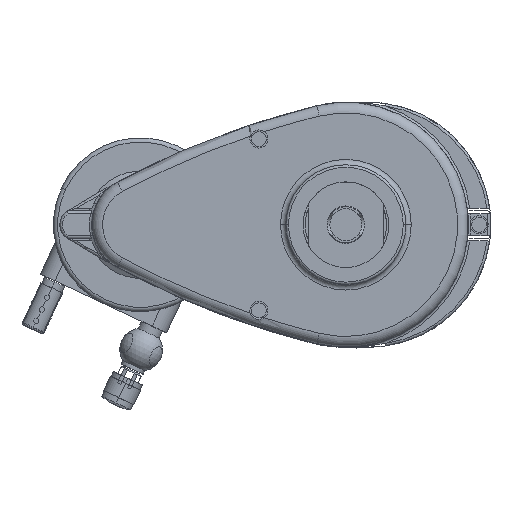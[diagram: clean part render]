
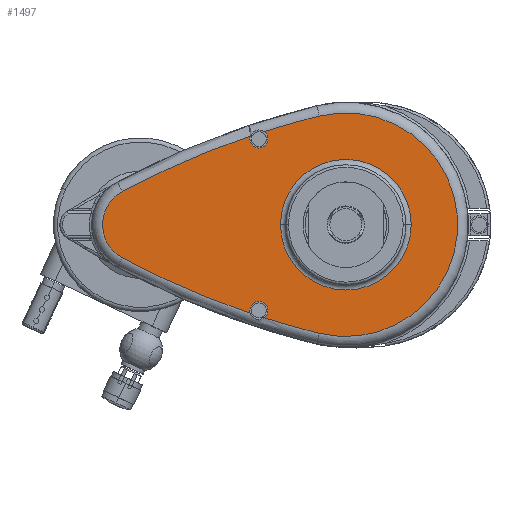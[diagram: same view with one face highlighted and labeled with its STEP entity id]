
A CAD part, front view. The second image highlights one B-rep face of the part: STEP entity #1497.
In plain terms, the highlighted planar face has unit normal (0, -1, 0).
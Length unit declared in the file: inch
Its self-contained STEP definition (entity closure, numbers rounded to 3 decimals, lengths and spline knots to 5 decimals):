
#1=CARTESIAN_POINT('',(1.,-2.04,-2.));
#2=DIRECTION('',(0.,-1.,0.));
#3=DIRECTION('',(0.,0.,1.));
#4=AXIS2_PLACEMENT_3D('',#1,#2,#3);
#6=CARTESIAN_POINT('',(1.,-2.04,2.));
#7=DIRECTION('',(0.,-1.,0.));
#8=DIRECTION('',(-0.947,0.,0.321));
#9=AXIS2_PLACEMENT_3D('',#6,#7,#8);
#11=CARTESIAN_POINT('',(1.,-2.04,2.));
#12=DIRECTION('',(0.,-1.,0.));
#13=DIRECTION('',(0.,0.,-1.));
#14=AXIS2_PLACEMENT_3D('',#11,#12,#13);
#16=CARTESIAN_POINT('',(1.,-2.04,-2.));
#17=DIRECTION('',(0.,-1.,0.));
#18=DIRECTION('',(0.574,0.,-0.819));
#19=AXIS2_PLACEMENT_3D('',#16,#17,#18);
#147=CARTESIAN_POINT('',(3.03,-2.04,0.));
#148=DIRECTION('',(0.,-1.,0.));
#149=DIRECTION('',(-0.237,0.,-0.972));
#150=AXIS2_PLACEMENT_3D('',#147,#148,#149);
#166=CARTESIAN_POINT('',(7.05448,-2.04,-16.47574));
#167=DIRECTION('',(0.,-1.,0.));
#168=DIRECTION('',(-0.32,0.,0.948));
#169=AXIS2_PLACEMENT_3D('',#166,#167,#168);
#181=CARTESIAN_POINT('',(7.05448,-2.04,-16.47574));
#182=DIRECTION('',(0.,-1.,0.));
#183=DIRECTION('',(-0.237,0.,0.971));
#184=AXIS2_PLACEMENT_3D('',#181,#182,#183);
#193=CARTESIAN_POINT('',(-1.77,-2.04,0.));
#194=DIRECTION('',(0.,-1.,0.));
#195=DIRECTION('',(-0.472,0.,0.882));
#196=AXIS2_PLACEMENT_3D('',#193,#194,#195);
#224=CARTESIAN_POINT('',(7.054,-2.04,16.476));
#225=DIRECTION('',(0.,-1.,0.));
#226=DIRECTION('',(-0.303,0.,-0.953));
#227=AXIS2_PLACEMENT_3D('',#224,#225,#226);
#244=CARTESIAN_POINT('',(7.054,-2.04,16.476));
#245=DIRECTION('',(0.,-1.,0.));
#246=DIRECTION('',(-0.472,0.,-0.882));
#247=AXIS2_PLACEMENT_3D('',#244,#245,#246);
#1195=CARTESIAN_POINT('',(2.41176,-2.04,-2.53572));
#1196=CARTESIAN_POINT('',(2.41067,-2.04,2.53546));
#1197=VERTEX_POINT('',#1195);
#1198=VERTEX_POINT('',#1196);
#1205=CARTESIAN_POINT('',(-2.18549,-2.04,0.77574));
#1206=CARTESIAN_POINT('',(-2.18547,-2.04,-0.77575));
#1207=VERTEX_POINT('',#1205);
#1208=VERTEX_POINT('',#1206);
#1231=CARTESIAN_POINT('',(1.,-2.04,-1.7885));
#1232=CARTESIAN_POINT('',(0.79968,-2.04,-2.06784));
#1233=VERTEX_POINT('',#1231);
#1234=VERTEX_POINT('',#1232);
#1235=CARTESIAN_POINT('',(1.12133,-2.04,-2.17324));
#1236=VERTEX_POINT('',#1235);
#1237=CARTESIAN_POINT('',(0.79971,-2.04,2.06795));
#1238=CARTESIAN_POINT('',(1.,-2.04,1.7885));
#1239=VERTEX_POINT('',#1237);
#1240=VERTEX_POINT('',#1238);
#1241=CARTESIAN_POINT('',(1.12123,-2.04,2.17331));
#1242=VERTEX_POINT('',#1241);
#1470=CARTESIAN_POINT('',(0.,-2.04,0.));
#1471=DIRECTION('',(0.,-1.,0.));
#1472=DIRECTION('',(1.,0.,0.));
#1473=AXIS2_PLACEMENT_3D('',#1470,#1471,#1472);
#1474=PLANE('',#1473);
#1476=ORIENTED_EDGE('',*,*,#1475,.T.);
#1478=ORIENTED_EDGE('',*,*,#1477,.F.);
#1480=ORIENTED_EDGE('',*,*,#1479,.F.);
#1482=ORIENTED_EDGE('',*,*,#1481,.F.);
#1484=ORIENTED_EDGE('',*,*,#1483,.T.);
#1486=ORIENTED_EDGE('',*,*,#1485,.T.);
#1488=ORIENTED_EDGE('',*,*,#1487,.F.);
#1490=ORIENTED_EDGE('',*,*,#1489,.F.);
#1492=ORIENTED_EDGE('',*,*,#1491,.F.);
#1494=ORIENTED_EDGE('',*,*,#1493,.T.);
#1495=EDGE_LOOP('',(#1476,#1478,#1480,#1482,#1484,#1486,#1488,#1490,#1492,
#1494));
#1496=FACE_OUTER_BOUND('',#1495,.F.);
#1497=ADVANCED_FACE('',(#1496),#1474,.T.);
#5=CIRCLE('',#4,0.2115);
#10=CIRCLE('',#9,0.2115);
#15=CIRCLE('',#14,0.2115);
#20=CIRCLE('',#19,0.2115);
#151=CIRCLE('',#150,2.61);
#170=CIRCLE('',#169,19.57015);
#185=CIRCLE('',#184,19.57015);
#197=CIRCLE('',#196,0.88);
#228=CIRCLE('',#227,19.57015);
#248=CIRCLE('',#247,19.57015);
#1475=EDGE_CURVE('',#1233,#1234,#5,.T.);
#1477=EDGE_CURVE('',#1208,#1234,#248,.T.);
#1479=EDGE_CURVE('',#1207,#1208,#197,.T.);
#1481=EDGE_CURVE('',#1239,#1207,#170,.T.);
#1483=EDGE_CURVE('',#1239,#1240,#10,.T.);
#1485=EDGE_CURVE('',#1240,#1242,#15,.T.);
#1487=EDGE_CURVE('',#1198,#1242,#185,.T.);
#1489=EDGE_CURVE('',#1197,#1198,#151,.T.);
#1491=EDGE_CURVE('',#1236,#1197,#228,.T.);
#1493=EDGE_CURVE('',#1236,#1233,#20,.T.);
